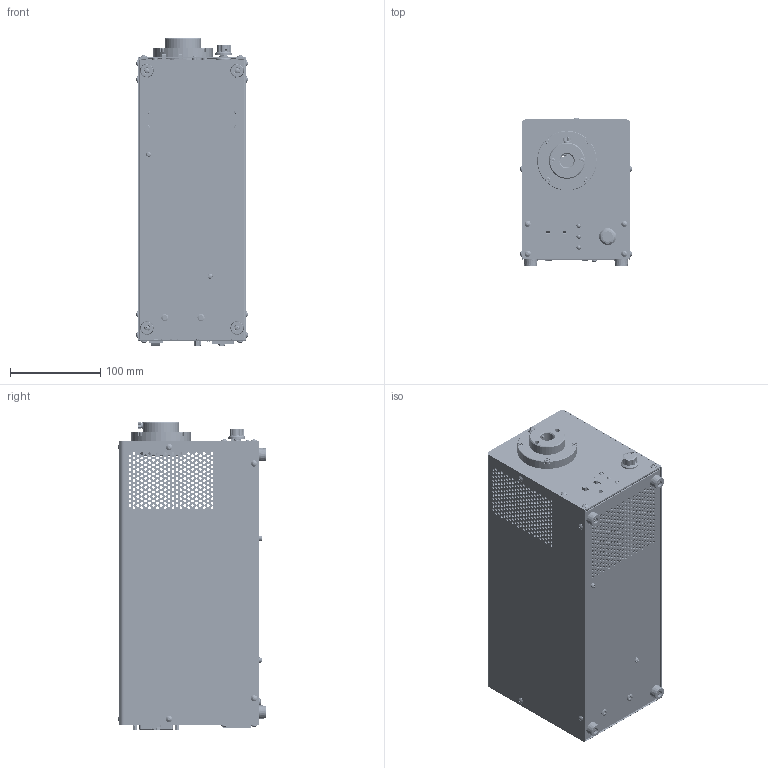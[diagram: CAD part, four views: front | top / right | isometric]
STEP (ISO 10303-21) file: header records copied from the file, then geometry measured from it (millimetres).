
FILE_DESCRIPTION (( 'STEP AP203' ), '1' );
FILE_NAME ('LA-HDF7010RL.STEP', '2018-03-28T06:17:05', ( '' ), ( '' ), 'SwSTEP 2.0', 'SolidWorks 2017', '' );
FILE_SCHEMA (( 'CONFIG_CONTROL_DESIGN' ));
Products named in the file (1): LA-HDF7010RL
Bounding box: 123.81 x 164.3 x 341.13 mm (x, y, z)
Volume: 390913.7 mm3; surface area: 541122.1 mm2
Topology: 92 solids, 92 shells, 7042 faces, 18951 edges, 12416 vertices
Faces by surface type: plane 3105, cylinder 2980, bspline 539, cone 295, torus 105, sphere 18
Entity records: 254945 total; most frequent: CARTESIAN_POINT 73456, ORIENTED_EDGE 37790, DIRECTION 36572, EDGE_CURVE 18895, AXIS2_PLACEMENT_3D 12899, VERTEX_POINT 12414, VECTOR 10774, LINE 10774
